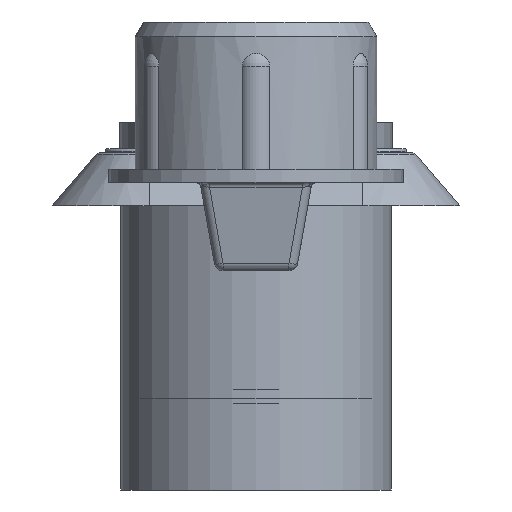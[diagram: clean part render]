
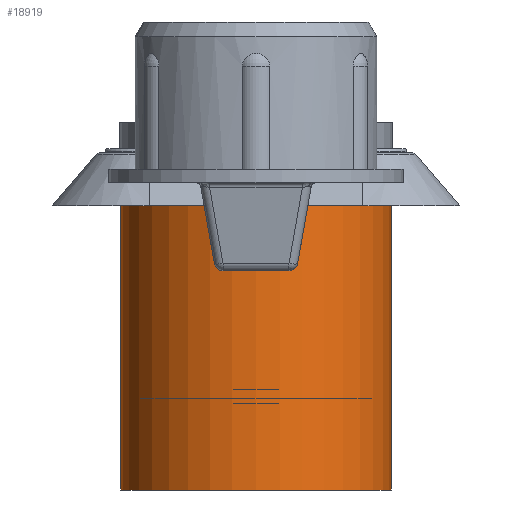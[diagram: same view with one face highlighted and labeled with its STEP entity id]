
A CAD part, front view. The second image highlights one B-rep face of the part: STEP entity #18919.
In plain terms, the highlighted cylindrical face has radius 11.684 mm (diameter 23.368 mm), a partial arc.
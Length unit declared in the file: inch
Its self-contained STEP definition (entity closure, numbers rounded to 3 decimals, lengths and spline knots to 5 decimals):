
#314 = CARTESIAN_POINT ( 'NONE',  ( 0., 0., -0.2 ) ) ;
#390 = CARTESIAN_POINT ( 'NONE',  ( -0.46, 0., -0.2 ) ) ;
#471 = EDGE_CURVE ( 'NONE', #15613, #12247, #2122, .T. ) ;
#502 = VERTEX_POINT ( 'NONE', #12646 ) ;
#533 = DIRECTION ( 'NONE',  ( 0., 0., 1. ) ) ;
#818 = AXIS2_PLACEMENT_3D ( 'NONE', #4324, #5802, #14546 ) ;
#1669 = CARTESIAN_POINT ( 'NONE',  ( -0.46, 0., -1.25 ) ) ;
#2122 = LINE ( 'NONE', #15788, #10386 ) ;
#3073 = EDGE_CURVE ( 'NONE', #502, #13989, #5063, .T. ) ;
#3539 = CARTESIAN_POINT ( 'NONE',  ( 0., 0., 0. ) ) ;
#4324 = CARTESIAN_POINT ( 'NONE',  ( 0., 0., -1.25 ) ) ;
#4408 = AXIS2_PLACEMENT_3D ( 'NONE', #3539, #5115, #11123 ) ;
#5063 = LINE ( 'NONE', #18234, #11922 ) ;
#5115 = DIRECTION ( 'NONE',  ( 0., 0., 1. ) ) ;
#5213 = FACE_OUTER_BOUND ( 'NONE', #17689, .T. ) ;
#5797 = ORIENTED_EDGE ( 'NONE', *, *, #471, .F. ) ;
#5802 = DIRECTION ( 'NONE',  ( 0., 0., 1. ) ) ;
#6252 = AXIS2_PLACEMENT_3D ( 'NONE', #314, #15151, #18302 ) ;
#8063 = ORIENTED_EDGE ( 'NONE', *, *, #8638, .T. ) ;
#8311 = DIRECTION ( 'NONE',  ( 0., 0., 1. ) ) ;
#8638 = EDGE_CURVE ( 'NONE', #15613, #502, #14317, .T. ) ;
#9868 = ORIENTED_EDGE ( 'NONE', *, *, #10642, .F. ) ;
#10386 = VECTOR ( 'NONE', #8311, 39.37008 ) ;
#10642 = EDGE_CURVE ( 'NONE', #12247, #13989, #15976, .T. ) ;
#11123 = DIRECTION ( 'NONE',  ( 1., 0., 0. ) ) ;
#11922 = VECTOR ( 'NONE', #533, 39.37008 ) ;
#12247 = VERTEX_POINT ( 'NONE', #390 ) ;
#12646 = CARTESIAN_POINT ( 'NONE',  ( 0.46, 0., -1.25 ) ) ;
#13989 = VERTEX_POINT ( 'NONE', #14706 ) ;
#14317 = CIRCLE ( 'NONE', #818, 0.46 ) ;
#14546 = DIRECTION ( 'NONE',  ( 1., 0., 0. ) ) ;
#14706 = CARTESIAN_POINT ( 'NONE',  ( 0.46, 0., -0.2 ) ) ;
#15151 = DIRECTION ( 'NONE',  ( 0., 0., 1. ) ) ;
#15613 = VERTEX_POINT ( 'NONE', #1669 ) ;
#15732 = CYLINDRICAL_SURFACE ( 'NONE', #4408, 0.46 ) ;
#15788 = CARTESIAN_POINT ( 'NONE',  ( -0.46, 0., 0. ) ) ;
#15976 = CIRCLE ( 'NONE', #6252, 0.46 ) ;
#17241 = ORIENTED_EDGE ( 'NONE', *, *, #3073, .T. ) ;
#17689 = EDGE_LOOP ( 'NONE', ( #5797, #8063, #17241, #9868 ) ) ;
#18234 = CARTESIAN_POINT ( 'NONE',  ( 0.46, 0., 0. ) ) ;
#18302 = DIRECTION ( 'NONE',  ( 1., 0., 0. ) ) ;
#18919 = ADVANCED_FACE ( 'NONE', ( #5213 ), #15732, .T. ) ;
